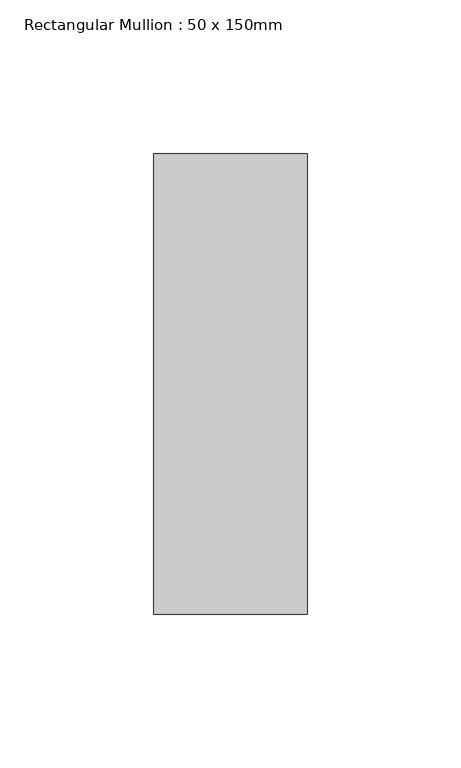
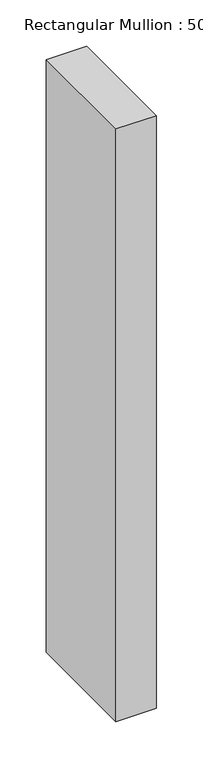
"""IFC4 building model written with IfcOpenShell, lengths in millimetres: member geometry, Rectangular Mullion : 50 x 150mm."""

import ifcopenshell
import ifcopenshell.guid

model = None  # the IFC model being written
_history = None  # IfcOwnerHistory: only IFC2X3 demands one
_inside = {}  # id of a spatial element -> (the spatial element, [elements in it])
_under = {}  # id of a project, library or spatial element -> (it, [spatial elements below it])
_declared = {}  # id of a project -> (the project, [libraries it declares])
_typed = {}  # id of a type object -> (the type object, [elements of that type])
_made_of = {}  # id of a material, layer set ... -> (it, [elements and type objects made of it])


def new_model(schema):
    """Start an empty IFC model of exactly this schema.

    Asked for "IFC4X3", IfcOpenShell would pick the latest addendum, in which some entities
    have other attributes; the version numbers below select the first issue.
    IFC2X3 requires an IfcOwnerHistory on every rooted entity: one is made here for all.
    """
    global model, _history
    if schema == "IFC4X3":
        model = ifcopenshell.file(schema_version=(4, 3, 0, 0))
    else:
        model = ifcopenshell.file(schema=schema)
    _inside.clear()
    _under.clear()
    _declared.clear()
    _typed.clear()
    _made_of.clear()
    _history = None
    if model.schema == "IFC2X3":
        org = make("IfcOrganization", Name="unknown")
        user = make(
            "IfcPersonAndOrganization",
            ThePerson=make("IfcPerson", FamilyName="unknown"),
            TheOrganization=org,
        )
        app = make(
            "IfcApplication",
            ApplicationDeveloper=org,
            Version="unknown",
            ApplicationFullName="unknown",
            ApplicationIdentifier="unknown",
        )
        _history = make(
            "IfcOwnerHistory",
            OwningUser=user,
            OwningApplication=app,
            ChangeAction="ADDED",
            CreationDate=0,
        )
    return model


def make(cls, **values):
    """One entity of the class cls with the attributes given. An attribute that is None is left unset."""
    return model.create_entity(
        cls, **{name: value for name, value in values.items() if value is not None}
    )


def rooted(cls, **values):
    """An entity with a GlobalId (a new one), such as an element, a storey or a relation."""
    return make(cls, GlobalId=ifcopenshell.guid.new(), OwnerHistory=_history, **values)


def si_unit(unit_type, name, prefix=None):
    """IfcSIUnit, for example si_unit("LENGTHUNIT", "METRE", prefix="MILLI")."""
    return make("IfcSIUnit", UnitType=unit_type, Prefix=prefix, Name=name)


def assignment(units):
    """IfcUnitAssignment: the units of a project."""
    return None if units is None else make("IfcUnitAssignment", Units=units)


def point(xyz):
    """IfcCartesianPoint."""
    return None if xyz is None else make("IfcCartesianPoint", Coordinates=xyz)


def direction(xyz):
    """IfcDirection."""
    return None if xyz is None else make("IfcDirection", DirectionRatios=xyz)


def frame(location, z_axis=None, x_axis=None):
    """IfcAxis2Placement3D, a coordinate frame: its origin and axes. An axis left out is left unset."""
    return make(
        "IfcAxis2Placement3D",
        Location=point(location),
        Axis=direction(z_axis),
        RefDirection=direction(x_axis),
    )


def origin():
    """The frame at (0, 0, 0) with its axes left unset."""
    return frame((0.0, 0.0, 0.0))


def place(relative_to, where):
    """IfcLocalPlacement: puts the frame where relative to a parent placement (None: the world)."""
    return make(
        "IfcLocalPlacement", PlacementRelTo=relative_to, RelativePlacement=where
    )


def context(
    kind, dimensions, precision=None, world=None, true_north=None, identifier=None
):
    """IfcGeometricRepresentationContext, for example the 3D "Model" context."""
    return make(
        "IfcGeometricRepresentationContext",
        ContextIdentifier=identifier,
        ContextType=kind,
        CoordinateSpaceDimension=dimensions,
        Precision=precision,
        WorldCoordinateSystem=world,
        TrueNorth=true_north,
    )


def project(units=None, contexts=None):
    """IfcProject with its units and contexts."""
    return rooted(
        "IfcProject",
        Name="project",
        RepresentationContexts=contexts,
        UnitsInContext=assignment(units),
    )


def spatial(cls, under=None, at=None, **own):
    """A site, building, storey or space (cls), placed at a placement, below another one or the project."""
    s = rooted(cls, ObjectPlacement=at, **own)
    if under is not None:
        _under.setdefault(under.id(), (under, []))[1].append(s)
    return s


def polyline(points):
    """IfcPolyline through the points."""
    return make("IfcPolyline", Points=[point(p) for p in points])


def outline(outer, holes=None, kind="AREA"):
    """IfcArbitraryClosedProfileDef: a profile drawn as a closed curve; with holes, ...WithVoids."""
    if holes is None:
        return make("IfcArbitraryClosedProfileDef", ProfileType=kind, OuterCurve=outer)
    return make(
        "IfcArbitraryProfileDefWithVoids",
        ProfileType=kind,
        OuterCurve=outer,
        InnerCurves=holes,
    )


def extrude(swept, where, along, depth):
    """IfcExtrudedAreaSolid: the profile swept, set in the frame where, extruded along a direction by depth."""
    return make(
        "IfcExtrudedAreaSolid",
        SweptArea=swept,
        Position=where,
        ExtrudedDirection=direction(along),
        Depth=depth,
    )


def shape(context_of_items, identifier, shape_type, items):
    """IfcShapeRepresentation: the items that make up one representation, for example the "Body"."""
    return make(
        "IfcShapeRepresentation",
        ContextOfItems=context_of_items,
        RepresentationIdentifier=identifier,
        RepresentationType=shape_type,
        Items=items,
    )


def source(mapping_origin, context_of_items, identifier, shape_type, items):
    """IfcRepresentationMap: a shape defined once, which mapped items show again and again."""
    return make(
        "IfcRepresentationMap",
        MappingOrigin=mapping_origin,
        MappedRepresentation=shape(context_of_items, identifier, shape_type, items),
    )


def transform(
    local_origin,
    x_axis=None,
    y_axis=None,
    z_axis=None,
    scale=None,
    scale2=None,
    scale3=None,
    uniform=True,
):
    """IfcCartesianTransformationOperator3D, or its non-uniform kind. x_axis, y_axis, z_axis: its Axis1, 2, 3."""
    if uniform:
        return make(
            "IfcCartesianTransformationOperator3D",
            Axis1=direction(x_axis),
            Axis2=direction(y_axis),
            LocalOrigin=point(local_origin),
            Scale=scale,
            Axis3=direction(z_axis),
        )
    return make(
        "IfcCartesianTransformationOperator3DnonUniform",
        Axis1=direction(x_axis),
        Axis2=direction(y_axis),
        LocalOrigin=point(local_origin),
        Scale=scale,
        Axis3=direction(z_axis),
        Scale2=scale2,
        Scale3=scale3,
    )


def mapped(mapping_source, mapping_target):
    """IfcMappedItem: shows the shape of a source again, moved by a transform."""
    return make(
        "IfcMappedItem", MappingSource=mapping_source, MappingTarget=mapping_target
    )


def made_of(thing, what):
    """Note that an element or type object is made of a material, layer set ...; save() writes the relation."""
    if what is not None:
        _made_of.setdefault(what.id(), (what, []))[1].append(thing)
    return thing


def element(
    cls,
    number,
    at=None,
    inside=None,
    cuts=None,
    type_object=None,
    material=None,
    context=None,
    identifier="Body",
    shape_type=None,
    held_by="IfcProductDefinitionShape",
    body=None,
    shapes=None,
    **own,
):
    """One element of the class cls, such as IfcWall. Its Tag is "e" and its number.

    at: its placement. inside: the storey or other place that contains it. cuts: it is an
    opening in that element (IfcRelVoidsElement). A single representation is given by context,
    identifier, shape_type and body (its items); several are given by shapes. held_by: the class
    of the entity that holds the representations. save() writes the other relations.
    """
    e = rooted(cls, Tag="e%d" % number, ObjectPlacement=at, **own)
    if body is not None:
        shapes = [shape(context, identifier, shape_type, body)]
    if shapes is not None:
        e.Representation = make(held_by, Representations=shapes)
    if inside is not None:
        _inside.setdefault(inside.id(), (inside, []))[1].append(e)
    if cuts is not None:
        rooted(
            "IfcRelVoidsElement", RelatingBuildingElement=cuts, RelatedOpeningElement=e
        )
    if type_object is not None:
        _typed.setdefault(type_object.id(), (type_object, []))[1].append(e)
    return made_of(e, material)


def aggregate(whole, parts):
    """IfcRelAggregates: a whole, such as a stair, and the parts it consists of."""
    return rooted("IfcRelAggregates", RelatingObject=whole, RelatedObjects=parts)


def save(model, path):
    """Write the relations noted so far, then the file.

    IfcRelAggregates (storeys below a building ...), IfcRelContainedInSpatialStructure (elements
    in a storey), IfcRelDefinesByType, IfcRelAssociatesMaterial and IfcRelDeclares: one each for
    every whole, place, type object, material and project.
    """
    for whole, parts in _under.values():
        aggregate(whole, parts)
    for where, things in _inside.values():
        rooted(
            "IfcRelContainedInSpatialStructure",
            RelatedElements=things,
            RelatingStructure=where,
        )
    for kind, things in _typed.values():
        rooted("IfcRelDefinesByType", RelatedObjects=things, RelatingType=kind)
    for what, things in _made_of.values():
        rooted("IfcRelAssociatesMaterial", RelatedObjects=things, RelatingMaterial=what)
    for by, libraries in _declared.values():
        rooted("IfcRelDeclares", RelatingContext=by, RelatedDefinitions=libraries)
    model.write(path)


def rectangular_mullion_50_x_150mm_f6b4d59c(model_context):
    return source(origin(), model_context, "Body", "SweptSolid", [
        extrude(outline(polyline([(25.0, 75.0), (25.0, -75.0), (-25.0, -75.0), (-25.0, 75.0), (25.0, 75.0)])), frame((0.0, 0.0, -780.0), z_axis=(0.0, 0.0, 1.0), x_axis=(1.0, 0.0, 0.0)), (0.0, 0.0, 1.0), 780.0),
    ])


if __name__ == "__main__":
    model = new_model("IFC4")
    model_context = context("Model", 3, world=origin())
    ifc_project = project(units=[si_unit("LENGTHUNIT", "METRE", prefix="MILLI")], contexts=[model_context])
    site = spatial("IfcSite", under=ifc_project)
    building = spatial("IfcBuilding", under=site)
    placement = place(None, origin())
    rectangular_mullion_50_x_150mm_shape = rectangular_mullion_50_x_150mm_f6b4d59c(model_context)
    element("IfcMember", 1, ObjectType="Rectangular Mullion : 50 x 150mm", at=placement, inside=building, context=model_context, shape_type="MappedRepresentation", body=[
        mapped(rectangular_mullion_50_x_150mm_shape, transform((0.0, 0.0, 0.0), x_axis=(1.0, 0.0, 0.0), y_axis=(0.0, 1.0, 0.0), z_axis=(0.0, 0.0, 1.0))),
    ])
    save(model, "model.ifc")
